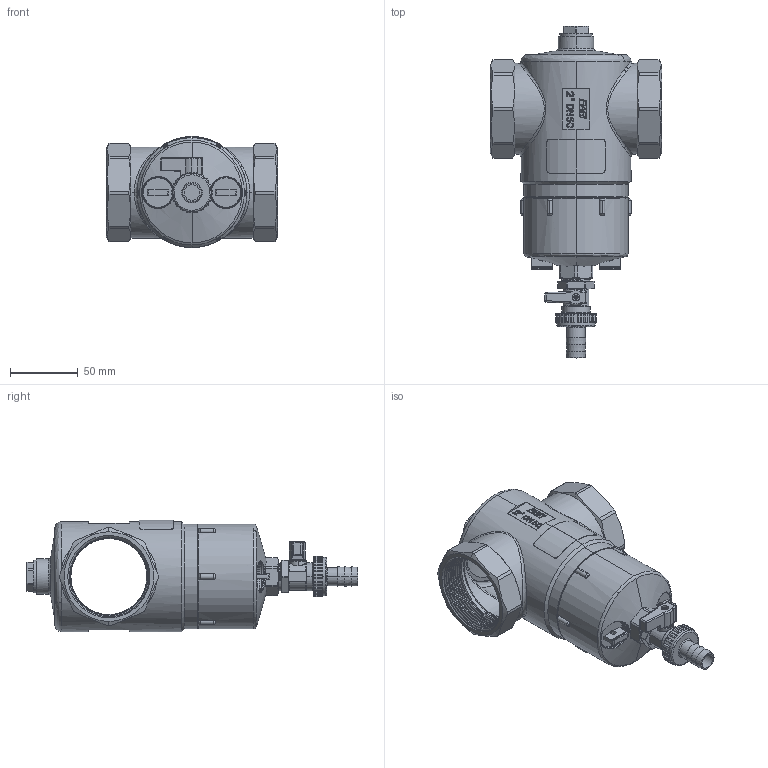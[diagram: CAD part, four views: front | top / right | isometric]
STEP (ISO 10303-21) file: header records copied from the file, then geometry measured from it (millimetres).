
FILE_DESCRIPTION (( 'STEP AP214' ), '1' );
FILE_NAME ('FAR215.STEP', '2022-05-06T10:19:06', ( '' ), ( '' ), 'SwSTEP 2.0', 'SolidWorks 2021', '' );
FILE_SCHEMA (( 'AUTOMOTIVE_DESIGN' ));
Length unit declared in the file: millimetre
Products named in the file (13): 3812asb; 1500trm_giallo; 3447 12; 200lemB; 4627asb; 227lem; 1443trm_giallo; FAR215; 542mnm_F; 8350 635; Loctite 243_12; 8350 172; 581mnm_F
Assembly tree (13 placements, depth 3):
  FAR215
    1443trm_giallo
    8350 635
    3812asb
      542mnm_F
      8350 172
    3447 12
    Loctite 243_12
    1500trm_giallo
    200lemB
    4627asb  x2
      581mnm_F
      227lem
Bounding box: 126 x 244.4 x 81.85 mm (x, y, z)
Volume: 245022.3 mm3; surface area: 149057.6 mm2
Topology: 14 solids, 14 shells, 1477 faces, 3879 edges, 2474 vertices
Faces by surface type: cylinder 577, bspline 380, plane 380, cone 140
Entity records: 84919 total; most frequent: CARTESIAN_POINT 53481, ORIENTED_EDGE 7292, DIRECTION 5268, EDGE_CURVE 3646, VERTEX_POINT 2328, AXIS2_PLACEMENT_3D 1874, VECTOR 1520, LINE 1520
